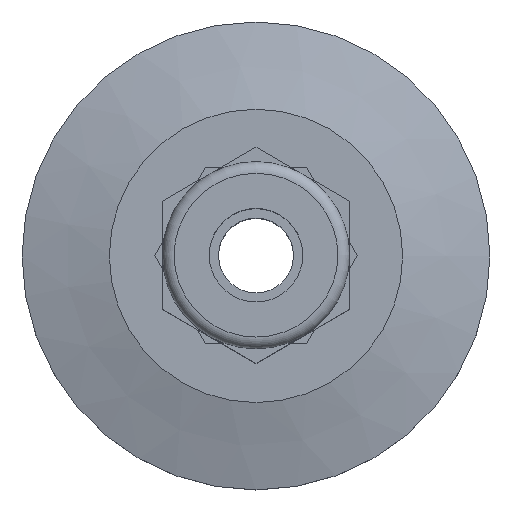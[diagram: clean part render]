
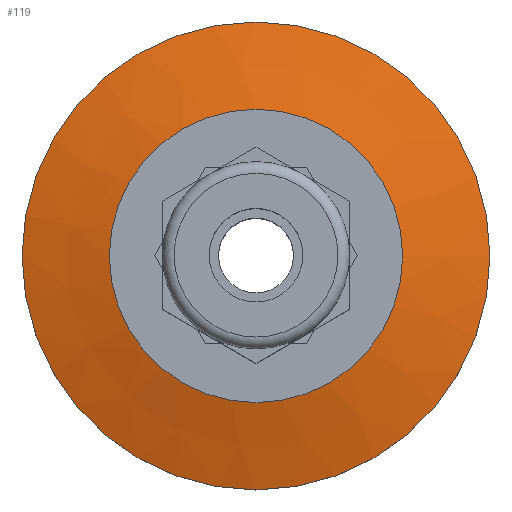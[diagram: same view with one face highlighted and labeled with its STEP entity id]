
A CAD part, top view. The second image highlights one B-rep face of the part: STEP entity #119.
In plain terms, the highlighted conical face has half-angle 75 degrees and reference radius 20 mm.
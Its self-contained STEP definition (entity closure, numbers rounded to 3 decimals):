
#119 = ADVANCED_FACE( '', ( #245, #246 ), #247, .T. );
#245 = FACE_BOUND( '', #397, .T. );
#246 = FACE_OUTER_BOUND( '', #398, .T. );
#247 = CONICAL_SURFACE( '', #399, 20., 1.309 );
#397 = EDGE_LOOP( '', ( #559 ) );
#398 = EDGE_LOOP( '', ( #560 ) );
#399 = AXIS2_PLACEMENT_3D( '', #561, #562, #563 );
#559 = ORIENTED_EDGE( '', *, *, #829, .F. );
#560 = ORIENTED_EDGE( '', *, *, #830, .T. );
#561 = CARTESIAN_POINT( '', ( 0., 0., 3. ) );
#562 = DIRECTION( '', ( 0., 0., -1. ) );
#563 = DIRECTION( '', ( -1., 0., 0. ) );
#829 = EDGE_CURVE( '', #955, #955, #956, .T. );
#830 = EDGE_CURVE( '', #957, #957, #958, .T. );
#955 = VERTEX_POINT( '', #1120 );
#956 = CIRCLE( '', #1121, 12.536 );
#957 = VERTEX_POINT( '', #1122 );
#958 = CIRCLE( '', #1123, 20. );
#1120 = CARTESIAN_POINT( '', ( 12.536, 0., 5. ) );
#1121 = AXIS2_PLACEMENT_3D( '', #1299, #1300, #1301 );
#1122 = CARTESIAN_POINT( '', ( 20., 0., 3. ) );
#1123 = AXIS2_PLACEMENT_3D( '', #1302, #1303, #1304 );
#1299 = CARTESIAN_POINT( '', ( 0., 0., 5. ) );
#1300 = DIRECTION( '', ( 0., 0., 1. ) );
#1301 = DIRECTION( '', ( 1., 0., 0. ) );
#1302 = CARTESIAN_POINT( '', ( 0., 0., 3. ) );
#1303 = DIRECTION( '', ( 0., 0., 1. ) );
#1304 = DIRECTION( '', ( 1., 0., 0. ) );
